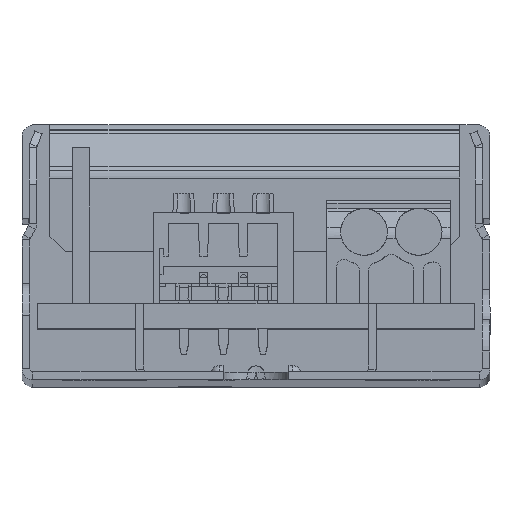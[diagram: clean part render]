
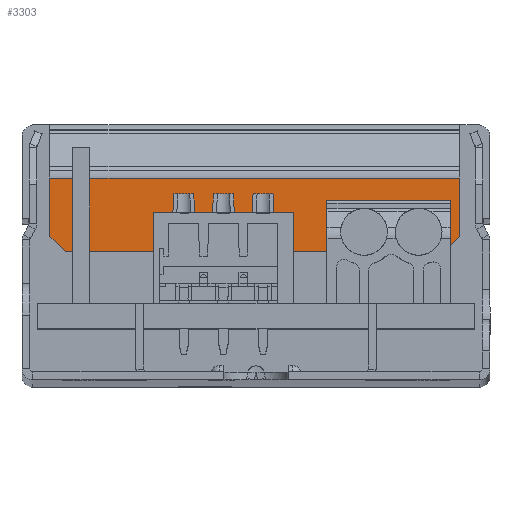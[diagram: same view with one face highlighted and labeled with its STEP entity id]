
A CAD part, top view. The second image highlights one B-rep face of the part: STEP entity #3303.
In plain terms, the highlighted planar face has unit normal (0, 0, 1).
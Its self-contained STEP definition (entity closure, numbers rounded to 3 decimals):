
#1389 = VECTOR ( 'NONE', #37905, 1000. ) ;
#2066 = VERTEX_POINT ( 'NONE', #26124 ) ;
#3006 = CARTESIAN_POINT ( 'NONE',  ( -13.213, 12.971, 111.629 ) ) ;
#3090 = VERTEX_POINT ( 'NONE', #3006 ) ;
#3275 = DIRECTION ( 'NONE',  ( 1., 0., 0. ) ) ;
#3303 = ADVANCED_FACE ( 'NONE', ( #6413 ), #17714, .F. ) ;
#3991 = ORIENTED_EDGE ( 'NONE', *, *, #30962, .F. ) ;
#4424 = LINE ( 'NONE', #34205, #1389 ) ;
#5124 = VECTOR ( 'NONE', #27039, 1000. ) ;
#5759 = DIRECTION ( 'NONE',  ( 0., -1., 0. ) ) ;
#6413 = FACE_OUTER_BOUND ( 'NONE', #16720, .T. ) ;
#7154 = DIRECTION ( 'NONE',  ( 0., 0., -1. ) ) ;
#8452 = EDGE_CURVE ( 'NONE', #2066, #18309, #15966, .T. ) ;
#8572 = VERTEX_POINT ( 'NONE', #43493 ) ;
#9045 = VERTEX_POINT ( 'NONE', #40469 ) ;
#11951 = AXIS2_PLACEMENT_3D ( 'NONE', #36191, #7154, #43560 ) ;
#15966 = LINE ( 'NONE', #19662, #5124 ) ;
#16720 = EDGE_LOOP ( 'NONE', ( #22973, #30025, #27030, #3991, #17974, #38332 ) ) ;
#17714 = PLANE ( 'NONE',  #11951 ) ;
#17963 = LINE ( 'NONE', #29785, #48587 ) ;
#17974 = ORIENTED_EDGE ( 'NONE', *, *, #38542, .F. ) ;
#18309 = VERTEX_POINT ( 'NONE', #26593 ) ;
#19662 = CARTESIAN_POINT ( 'NONE',  ( 13.058, 9.235, 111.629 ) ) ;
#22973 = ORIENTED_EDGE ( 'NONE', *, *, #39878, .F. ) ;
#24465 = LINE ( 'NONE', #39708, #40364 ) ;
#25227 = VECTOR ( 'NONE', #38857, 1000. ) ;
#25933 = VECTOR ( 'NONE', #3275, 1000. ) ;
#26124 = CARTESIAN_POINT ( 'NONE',  ( 12.058, 8.235, 111.629 ) ) ;
#26593 = CARTESIAN_POINT ( 'NONE',  ( 13.058, 9.235, 111.629 ) ) ;
#27030 = ORIENTED_EDGE ( 'NONE', *, *, #35475, .F. ) ;
#27039 = DIRECTION ( 'NONE',  ( 0.707, 0.707, 0. ) ) ;
#27421 = CARTESIAN_POINT ( 'NONE',  ( -12.213, 8.235, 111.629 ) ) ;
#27542 = LINE ( 'NONE', #42543, #25227 ) ;
#29456 = VERTEX_POINT ( 'NONE', #27421 ) ;
#29785 = CARTESIAN_POINT ( 'NONE',  ( -13.213, 13.24, 111.629 ) ) ;
#30025 = ORIENTED_EDGE ( 'NONE', *, *, #8452, .T. ) ;
#30593 = LINE ( 'NONE', #45599, #25933 ) ;
#30962 = EDGE_CURVE ( 'NONE', #3090, #9045, #30593, .T. ) ;
#32456 = EDGE_CURVE ( 'NONE', #8572, #29456, #27542, .T. ) ;
#34205 = CARTESIAN_POINT ( 'NONE',  ( -13.213, 8.235, 111.629 ) ) ;
#35475 = EDGE_CURVE ( 'NONE', #9045, #18309, #24465, .T. ) ;
#36191 = CARTESIAN_POINT ( 'NONE',  ( 0., -4.803, 111.629 ) ) ;
#37905 = DIRECTION ( 'NONE',  ( -1., 0., 0. ) ) ;
#38332 = ORIENTED_EDGE ( 'NONE', *, *, #32456, .T. ) ;
#38542 = EDGE_CURVE ( 'NONE', #8572, #3090, #17963, .T. ) ;
#38857 = DIRECTION ( 'NONE',  ( 0.707, -0.707, 0. ) ) ;
#39708 = CARTESIAN_POINT ( 'NONE',  ( 13.058, 8.235, 111.629 ) ) ;
#39878 = EDGE_CURVE ( 'NONE', #2066, #29456, #4424, .T. ) ;
#40364 = VECTOR ( 'NONE', #5759, 1000. ) ;
#40469 = CARTESIAN_POINT ( 'NONE',  ( 13.058, 12.971, 111.629 ) ) ;
#42543 = CARTESIAN_POINT ( 'NONE',  ( -12.213, 8.235, 111.629 ) ) ;
#43493 = CARTESIAN_POINT ( 'NONE',  ( -13.213, 9.235, 111.629 ) ) ;
#43560 = DIRECTION ( 'NONE',  ( 0., -1., 0. ) ) ;
#44539 = DIRECTION ( 'NONE',  ( 0., 1., 0. ) ) ;
#45599 = CARTESIAN_POINT ( 'NONE',  ( 13.058, 12.971, 111.629 ) ) ;
#48587 = VECTOR ( 'NONE', #44539, 1000. ) ;
